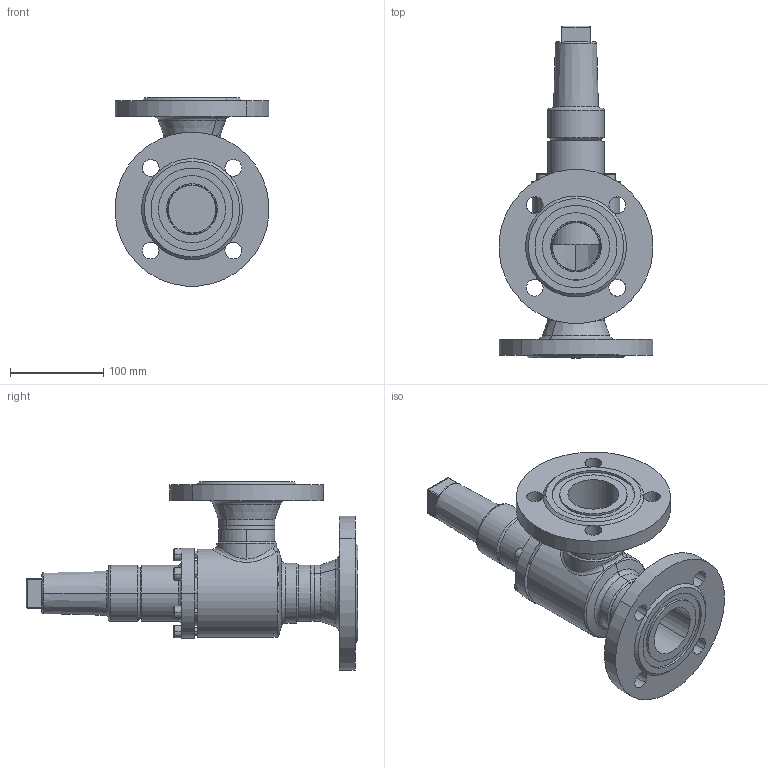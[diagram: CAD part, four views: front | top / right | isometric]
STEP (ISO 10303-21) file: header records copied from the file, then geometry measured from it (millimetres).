
FILE_DESCRIPTION (( 'STEP AP214' ), '1' );
FILE_NAME ('RVA29420D15-DN050_DIN-FL-N_PS40.STEP', '2006-04-28T06:19:23', ( 'Herr Grams' ), ( 'AWP GmbH' ), 'SwSTEP 2.0', 'SolidWorks 2002296', '' );
FILE_SCHEMA (( 'AUTOMOTIVE_DESIGN' ));
Length unit declared in the file: millimetre
Products named in the file (10): RVA29420D15-DN050_DIN-FL-N_PS40; RVA29300E15_Deck-Schr-DN40-50_Standard; Deckel29300E15-DN40-50_Standard; Zylinderschraube-DIN912_M 8x 25; Kappe16402_DN040-65_Standard; Gehäuse-kpl16420-DN050_DIN_PS40_Standard; Flansch-DIN2635-Nut_PS40_DIN-Flansch-DN050_PS40-Nut; Gehäuse16400-DN050_Standard; bead16420-Geh-050-2_Standard; bead16420-Geh-050-1_Standard
Assembly tree (15 placements, depth 3):
  RVA29420D15-DN050_DIN-FL-N_PS40
    Gehäuse-kpl16420-DN050_DIN_PS40_Standard
      Flansch-DIN2635-Nut_PS40_DIN-Flansch-DN050_PS40-Nut  x2
      Gehäuse16400-DN050_Standard
      bead16420-Geh-050-2_Standard
      bead16420-Geh-050-1_Standard
    RVA29300E15_Deck-Schr-DN40-50_Standard
      Zylinderschraube-DIN912_M 8x 25  x6
      Deckel29300E15-DN40-50_Standard
    Kappe16402_DN040-65_Standard
Bounding box: 164.37 x 355 x 201.19 mm (x, y, z)
Volume: 1607743.8 mm3; surface area: 288006.7 mm2
Topology: 13 solids, 13 shells, 322 faces, 735 edges, 462 vertices
Faces by surface type: cylinder 122, plane 103, cone 56, torus 31, bspline 10
Entity records: 18244 total; most frequent: CARTESIAN_POINT 13000, DIRECTION 1035, ORIENTED_EDGE 926, EDGE_CURVE 463, AXIS2_PLACEMENT_3D 440, VERTEX_POINT 290, EDGE_LOOP 241, CIRCLE 230
